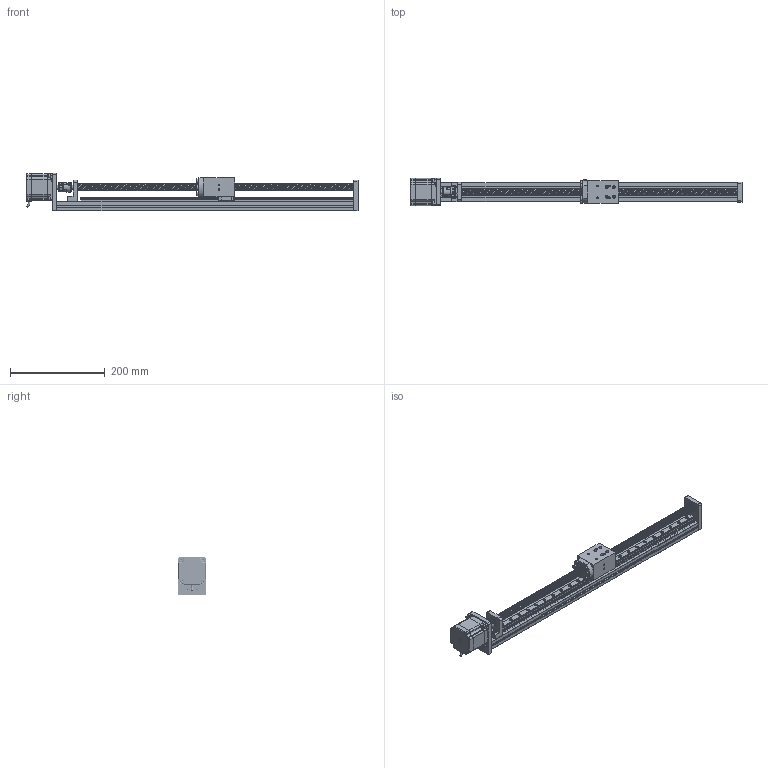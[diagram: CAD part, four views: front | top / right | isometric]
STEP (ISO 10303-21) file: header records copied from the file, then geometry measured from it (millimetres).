
FILE_DESCRIPTION(('STEP AP214'), '1');
FILE_NAME('FSK40', '2022-03-24T19:02:57', ('AF'), (''), 'UNSPECIFIED', 'UNSPECIFIED', '');
FILE_SCHEMA(('AUTOMOTIVE_DESIGN { 1 0 10303 214 3 1 1}'));
Length unit declared in the file: millimetre
Products named in the file (22): _SKF_608-2Z_PART1; _SKF_608-2Z_PART2; _SKF_608-2Z_PART3
Assembly tree (61 placements, depth 3):
  (unnamed)
    (unnamed)
    (unnamed)
    (unnamed)
    (unnamed)
    (unnamed)
    (unnamed)
    (unnamed)
    (unnamed)  x2
      _SKF_608-2Z_PART1
      _SKF_608-2Z_PART2
      _SKF_608-2Z_PART3
    (unnamed)
    (unnamed)  x6
    (unnamed)  x23
    (unnamed)
      (unnamed)  x2
      (unnamed)
      (unnamed)  x2
    (unnamed)  x4
    (unnamed)
    (unnamed)  x2
Bounding box: 699 x 57 x 80 mm (x, y, z)
Volume: 729992.2 mm3; surface area: 402372.9 mm2
Topology: 79 solids, 79 shells, 1956 faces, 4623 edges, 2954 vertices
Faces by surface type: plane 900, cylinder 518, cone 245, torus 176, bspline 98, sphere 19
Full cylindrical faces by diameter (mm): 2 x8, 2.459 x10, 2.7 x4, 3 x29, 3.2 x12, 3.242 x6, 3.3 x8, 3.5 x24, 4 x11, 4.134 x4, 4.2 x11, 5 x4, 5.2 x4, 5.5 x29, 6 x27, 6.2 x4, 7 x6, 7.5 x1, 8 x7, 8.2 x6, 8.5 x10, 10 x2, 12.15 x8, 14 x1, 16 x1, 17 x1, 17.6 x4, 19 x2, 19.2 x8, 22 x4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
Entity records: 101385 total; most frequent: CARTESIAN_POINT 59686, ORIENTED_EDGE 5784, DIRECTION 5690, EDGE_CURVE 2892, AXIS2_PLACEMENT_3D 2182, VERTEX_POINT 2077, EDGE_LOOP 1853, LINE 1326
